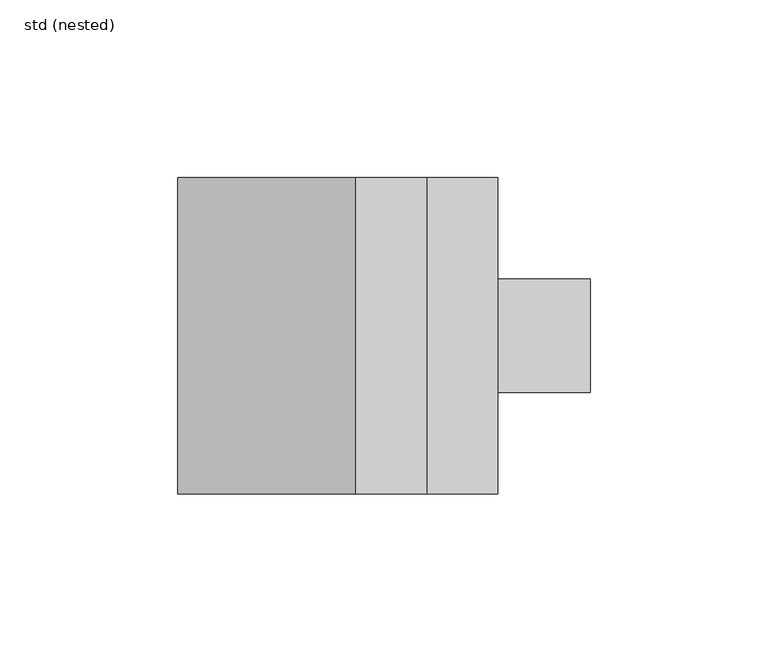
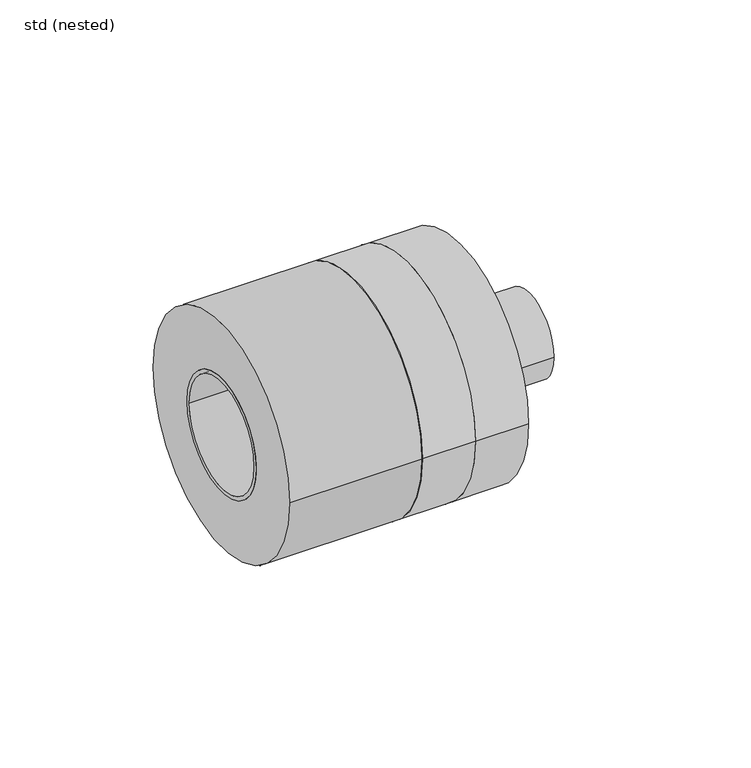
"""IFC4 building model written with IfcOpenShell, lengths in millimetres: pipe fitting geometry, ZZZ_do not use_PIF_ST_WPB_GM-X compound pipe optimiser_ACO : std (nested)."""

from ifc_helpers import new_model, si_unit, point, frame, origin, origin_2d, place, context, project, spatial, polyline, circle_curve, trimmed, segment, composite_curve, outline, extrude, source, transform, mapped, element, save
from ifc_brep_helpers import plane_surface, cylinder_surface, revolved_surface, advanced_brep


def std_nested_3dd98757(model_context):
    return source(origin(), model_context, "Body", "SolidModel", [
        advanced_brep(
        [(-26.34, -25.5, 0.0), (-26.34, 25.5, 0.0), (-14.0, 25.5, 0.0), (-14.0, -25.5, 0.0), (-30.0, 22.5, 0.0), (-30.0, -22.5, 0.0), (-30.0, -21.0, 0.0), (-30.0, 21.0, 0.0), (0.0, 22.5, 0.0), (0.0, -22.5, 0.0), (0.0, 21.0, 0.0), (0.0, -21.0, 0.0), (-26.34, 22.5, 0.0), (-26.34, -22.5, 0.0), (-14.0, -22.5, 0.0), (-14.0, 22.5, 0.0)],
        [
            (0, 1, circle_curve(frame((-26.34, 0.0, 0.0), z_axis=(1.0, 0.0, 0.0), x_axis=(0.0, -1.0, 0.0)), 25.5)),
            (1, 2),
            (2, 3, circle_curve(frame((-14.0, 0.0, 0.0), z_axis=(-1.0, 0.0, 0.0), x_axis=(0.0, -1.0, 0.0)), 25.5)),
            (3, 0),
            (1, 0, circle_curve(frame((-26.34, 0.0, 0.0), z_axis=(1.0, 0.0, 0.0), x_axis=(0.0, -1.0, 0.0)), 25.5)),
            (3, 2, circle_curve(frame((-14.0, 0.0, 0.0), z_axis=(-1.0, 0.0, 0.0), x_axis=(0.0, -1.0, 0.0)), 25.5)),
            (4, 5, circle_curve(frame((-30.0, 0.0, 0.0), z_axis=(-1.0, 0.0, 0.0), x_axis=(0.0, -1.0, 0.0)), 22.5)),
            (5, 4, circle_curve(frame((-30.0, 0.0, 0.0), z_axis=(-1.0, 0.0, 0.0), x_axis=(0.0, -1.0, 0.0)), 22.5)),
            (6, 7, circle_curve(frame((-30.0, 0.0, 0.0), z_axis=(1.0, 0.0, 0.0), x_axis=(0.0, -1.0, 0.0)), 21.0)),
            (7, 6, circle_curve(frame((-30.0, 0.0, 0.0), z_axis=(1.0, 0.0, 0.0), x_axis=(0.0, -1.0, 0.0)), 21.0)),
            (8, 9, circle_curve(frame((0.0, 0.0, 0.0), z_axis=(1.0, 0.0, 0.0), x_axis=(0.0, -1.0, 0.0)), 22.5)),
            (9, 8, circle_curve(frame((0.0, 0.0, 0.0), z_axis=(1.0, 0.0, 0.0), x_axis=(0.0, -1.0, 0.0)), 22.5)),
            (10, 11, circle_curve(frame((0.0, 0.0, 0.0), z_axis=(-1.0, 0.0, 0.0), x_axis=(0.0, -1.0, 0.0)), 21.0)),
            (11, 10, circle_curve(frame((0.0, 0.0, 0.0), z_axis=(-1.0, 0.0, 0.0), x_axis=(0.0, -1.0, 0.0)), 21.0)),
            (4, 12),
            (12, 13, circle_curve(frame((-26.34, 0.0, 0.0), z_axis=(-1.0, 0.0, 0.0), x_axis=(0.0, -1.0, 0.0)), 22.5)),
            (13, 5),
            (9, 14),
            (14, 15, circle_curve(frame((-14.0, 0.0, 0.0), z_axis=(1.0, 0.0, 0.0), x_axis=(0.0, -1.0, 0.0)), 22.5)),
            (15, 8),
            (13, 12, circle_curve(frame((-26.34, 0.0, 0.0), z_axis=(-1.0, 0.0, 0.0), x_axis=(0.0, -1.0, 0.0)), 22.5)),
            (15, 14, circle_curve(frame((-14.0, 0.0, 0.0), z_axis=(1.0, 0.0, 0.0), x_axis=(0.0, -1.0, 0.0)), 22.5)),
            (6, 11),
            (10, 7),
        ],
        [
            cylinder_surface(frame((-14.0, 0.0, 0.0), z_axis=(-1.0, 0.0, 0.0), x_axis=(0.0, -1.0, 0.0)), 25.5),
            plane_surface(frame((-30.0, -22.5, 0.0), z_axis=(-1.0, 0.0, 0.0), x_axis=(0.0, 0.0, 1.0))),
            plane_surface(frame((0.0, -22.5, 0.0), z_axis=(1.0, 0.0, 0.0), x_axis=(0.0, 0.0, -1.0))),
            cylinder_surface(frame((0.0, 0.0, 0.0), z_axis=(-1.0, 0.0, 0.0), x_axis=(0.0, -1.0, 0.0)), 22.5),
            revolved_surface(polyline([(-30.0, -21.0, 0.0), (0.0, -21.0, 0.0)]), (0.0, 0.0, 0.0), (-1.0, 0.0, 0.0)),
            plane_surface(frame((-26.34, -25.5, 0.0), z_axis=(-1.0, 0.0, 0.0), x_axis=(0.0, 0.0, 1.0))),
            plane_surface(frame((-14.0, -25.5, 0.0), z_axis=(1.0, 0.0, 0.0), x_axis=(0.0, 0.0, -1.0))),
        ],
        [
            (0, [[1, 2, 3, 4]]),
            (0, [[5, -4, 6, -2]]),
            (1, [[7, 8], [9, 10]]),
            (2, [[11, 12], [13, 14]]),
            (3, [[-7, 15, 16, 17]]),
            (3, [[-12, 18, 19, 20]]),
            (3, [[-8, -17, 21, -15]]),
            (3, [[-11, -20, 22, -18]]),
            (4, [[23, -13, 24, -9]]),
            (4, [[-23, -10, -24, -14]]),
            (5, [[-1, -5], [-16, -21]]),
            (6, [[-6, -3], [-19, -22]]),
        ],
    ),
        extrude(outline(composite_curve([segment(trimmed(circle_curve(origin_2d(), 44.5), [point((-44.5, 0.0))], [point((44.5, 0.0))], False, "CARTESIAN"), True, "CONTINUOUS"), segment(trimmed(circle_curve(origin_2d(), 44.5), [point((44.5, 0.0))], [point((-44.5, 0.0))], False, "CARTESIAN"), True, "CONTINUOUS")], self_intersect=False)), frame((20.0, 0.0, 0.0), z_axis=(1.0, 0.0, 0.0), x_axis=(0.0, 1.0, 0.0)), (0.0, 0.0, 1.0), 20.0),
        advanced_brep(
        [(-30.0, -44.5, 0.0), (-30.0, 44.5, 0.0), (-30.0, 22.5, 0.0), (-30.0, -22.5, 0.0), (20.0, -44.5, 0.0), (20.0, 44.5, 0.0), (0.0, -22.5, 0.0), (0.0, 22.5, 0.0)],
        [
            (0, 1, circle_curve(frame((-30.0, 0.0, 0.0), z_axis=(-1.0, 0.0, 0.0), x_axis=(0.0, 1.0, 0.0)), 44.5)),
            (1, 0, circle_curve(frame((-30.0, 0.0, 0.0), z_axis=(-1.0, 0.0, 0.0), x_axis=(0.0, 1.0, 0.0)), 44.5)),
            (2, 3, circle_curve(frame((-30.0, 0.0, 0.0), z_axis=(1.0, 0.0, 0.0), x_axis=(0.0, 1.0, 0.0)), 22.5)),
            (3, 2, circle_curve(frame((-30.0, 0.0, 0.0), z_axis=(1.0, 0.0, 0.0), x_axis=(0.0, 1.0, 0.0)), 22.5)),
            (4, 5, circle_curve(frame((20.0, 0.0, 0.0), z_axis=(1.0, 0.0, 0.0), x_axis=(0.0, 1.0, 0.0)), 44.5)),
            (5, 4, circle_curve(frame((20.0, 0.0, 0.0), z_axis=(1.0, 0.0, 0.0), x_axis=(0.0, 1.0, 0.0)), 44.5)),
            (0, 4),
            (5, 1),
            (6, 7, circle_curve(frame((0.0, 0.0, 0.0), z_axis=(-1.0, 0.0, 0.0), x_axis=(0.0, 1.0, 0.0)), 22.5)),
            (7, 6, circle_curve(frame((0.0, 0.0, 0.0), z_axis=(-1.0, 0.0, 0.0), x_axis=(0.0, 1.0, 0.0)), 22.5)),
            (6, 3),
            (2, 7),
        ],
        [
            plane_surface(frame((-30.0, 44.5, 0.0), z_axis=(-1.0, 0.0, 0.0), x_axis=(0.0, 0.0, -1.0))),
            plane_surface(frame((20.0, 44.5, 0.0), z_axis=(1.0, 0.0, 0.0), x_axis=(0.0, 0.0, 1.0))),
            cylinder_surface(frame((20.0, 0.0, 0.0), z_axis=(-1.0, 0.0, 0.0), x_axis=(0.0, 1.0, 0.0)), 44.5),
            plane_surface(frame((0.0, 22.5, 0.0), z_axis=(-1.0, 0.0, 0.0), x_axis=(0.0, 0.0, 1.0))),
            revolved_surface(polyline([(-30.0, 22.5, 0.0), (0.0, 22.5, 0.0)]), (0.0, 0.0, 0.0), (-1.0, 0.0, 0.0)),
        ],
        [
            (0, [[1, 2], [3, 4]]),
            (1, [[5, 6]]),
            (2, [[-1, 7, -6, 8]]),
            (2, [[-2, -8, -5, -7]]),
            (3, [[9, 10]]),
            (4, [[-9, 11, -3, 12]]),
            (4, [[-10, -12, -4, -11]]),
        ],
    ),
        extrude(outline(composite_curve([segment(trimmed(circle_curve(origin_2d(), 44.5), [point((44.5, 0.0))], [point((-44.5, 0.0))], False, "CARTESIAN"), True, "CONTINUOUS"), segment(trimmed(circle_curve(origin_2d(), 44.5), [point((-44.5, 0.0))], [point((44.5, 0.0))], False, "CARTESIAN"), True, "CONTINUOUS")], self_intersect=False)), frame((40.0, 0.0, 0.0), z_axis=(1.0, 0.0, 0.0), x_axis=(0.0, 1.0, 0.0)), (0.0, 0.0, 1.0), 20.0),
        extrude(outline(composite_curve([segment(trimmed(circle_curve(origin_2d(), 16.0), [point((16.0, 0.0))], [point((-16.0, 0.0))], False, "CARTESIAN"), True, "CONTINUOUS"), segment(trimmed(circle_curve(origin_2d(), 16.0), [point((-16.0, 0.0))], [point((16.0, 0.0))], False, "CARTESIAN"), True, "CONTINUOUS")], self_intersect=False)), frame((60.0, 0.0, 0.0), z_axis=(1.0, 0.0, 0.0), x_axis=(0.0, 1.0, 0.0)), (0.0, 0.0, 1.0), 26.0),
    ])


if __name__ == "__main__":
    model = new_model("IFC4")
    model_context = context("Model", 3, world=origin())
    ifc_project = project(units=[si_unit("LENGTHUNIT", "METRE", prefix="MILLI")], contexts=[model_context])
    site = spatial("IfcSite", under=ifc_project)
    building = spatial("IfcBuilding", under=site)
    placement = place(None, origin())
    std_nested_shape = std_nested_3dd98757(model_context)
    element("IfcPipeFitting", 1, ObjectType="ZZZ_do not use_PIF_ST_WPB_GM-X compound pipe optimiser_ACO : std (nested)", at=placement, inside=building, context=model_context, shape_type="MappedRepresentation", body=[
        mapped(std_nested_shape, transform((0.0, 0.0, 0.0), x_axis=(1.0, 0.0, 0.0), y_axis=(0.0, 1.0, 0.0), z_axis=(0.0, 0.0, 1.0))),
    ])
    save(model, "model.ifc")
